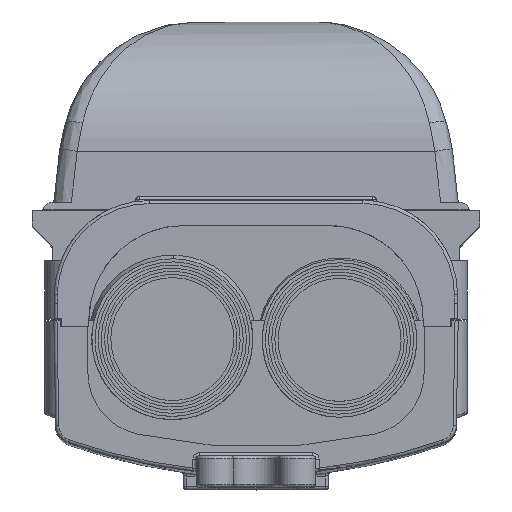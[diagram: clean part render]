
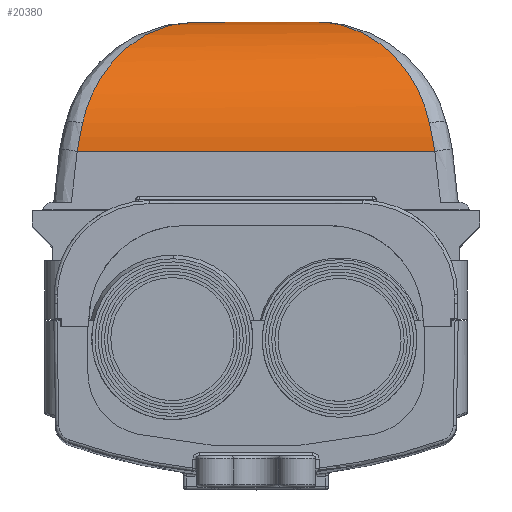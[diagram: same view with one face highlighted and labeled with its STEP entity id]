
A CAD part, top view. The second image highlights one B-rep face of the part: STEP entity #20380.
In plain terms, the highlighted cylindrical face has radius 21.3 mm (diameter 42.6 mm), a partial arc.
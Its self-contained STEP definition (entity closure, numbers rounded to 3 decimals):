
#2614=CARTESIAN_POINT('',(-28.342,51.343,151.975));
#2622=DIRECTION('',(1.,0.,0.));
#2623=VECTOR('',#2622,56.684);
#2624=CARTESIAN_POINT('',(-28.342,51.343,151.975));
#2625=LINE('1698',#2624,#2623);
#5586=CARTESIAN_POINT('',(9.56,71.9,130.687));
#5702=CARTESIAN_POINT('',(-27.496,55.819,151.338));
#5703=CARTESIAN_POINT('',(-27.577,55.45,151.431));
#5704=CARTESIAN_POINT('',(-27.734,54.709,151.598));
#5705=CARTESIAN_POINT('',(-27.954,53.591,151.787));
#5706=CARTESIAN_POINT('',(-28.158,52.468,151.915));
#5707=CARTESIAN_POINT('',(-28.282,51.718,151.961));
#5708=CARTESIAN_POINT('',(-28.342,51.343,151.975));
#5710=CARTESIAN_POINT('',(-9.56,71.9,130.687));
#5711=CARTESIAN_POINT('',(-9.967,71.9,131.156));
#5712=CARTESIAN_POINT('',(-10.779,71.869,132.09));
#5713=CARTESIAN_POINT('',(-11.988,71.731,133.483));
#5714=CARTESIAN_POINT('',(-13.182,71.503,134.858));
#5715=CARTESIAN_POINT('',(-14.353,71.188,136.206));
#5716=CARTESIAN_POINT('',(-15.494,70.79,137.52));
#5717=CARTESIAN_POINT('',(-16.598,70.314,138.791));
#5718=CARTESIAN_POINT('',(-17.66,69.765,140.013));
#5719=CARTESIAN_POINT('',(-18.675,69.15,141.183));
#5720=CARTESIAN_POINT('',(-19.641,68.475,142.294));
#5721=CARTESIAN_POINT('',(-20.553,67.747,143.345));
#5722=CARTESIAN_POINT('',(-21.411,66.971,144.332));
#5723=CARTESIAN_POINT('',(-22.213,66.155,145.256));
#5724=CARTESIAN_POINT('',(-22.959,65.303,146.114));
#5725=CARTESIAN_POINT('',(-23.648,64.422,146.908));
#5726=CARTESIAN_POINT('',(-24.282,63.516,147.637));
#5727=CARTESIAN_POINT('',(-24.861,62.591,148.304));
#5728=CARTESIAN_POINT('',(-25.386,61.649,148.909));
#5729=CARTESIAN_POINT('',(-25.86,60.694,149.454));
#5730=CARTESIAN_POINT('',(-26.283,59.73,149.942));
#5731=CARTESIAN_POINT('',(-26.657,58.758,150.373));
#5732=CARTESIAN_POINT('',(-26.985,57.781,150.749));
#5733=CARTESIAN_POINT('',(-27.266,56.801,151.073));
#5734=CARTESIAN_POINT('',(-27.424,56.146,151.256));
#5735=CARTESIAN_POINT('',(-27.496,55.819,151.338));
#5737=DIRECTION('',(1.,0.,0.));
#5738=VECTOR('',#5737,19.12);
#5739=CARTESIAN_POINT('',(-9.56,71.9,130.687));
#5740=LINE('1697',#5739,#5738);
#5741=CARTESIAN_POINT('',(27.496,55.819,151.338));
#5742=CARTESIAN_POINT('',(27.424,56.146,151.256));
#5743=CARTESIAN_POINT('',(27.266,56.801,151.073));
#5744=CARTESIAN_POINT('',(26.985,57.781,150.749));
#5745=CARTESIAN_POINT('',(26.657,58.758,150.373));
#5746=CARTESIAN_POINT('',(26.283,59.73,149.942));
#5747=CARTESIAN_POINT('',(25.86,60.694,149.454));
#5748=CARTESIAN_POINT('',(25.386,61.649,148.909));
#5749=CARTESIAN_POINT('',(24.86,62.591,148.304));
#5750=CARTESIAN_POINT('',(24.281,63.517,147.637));
#5751=CARTESIAN_POINT('',(23.648,64.423,146.907));
#5752=CARTESIAN_POINT('',(22.958,65.304,146.114));
#5753=CARTESIAN_POINT('',(22.213,66.155,145.255));
#5754=CARTESIAN_POINT('',(21.411,66.972,144.332));
#5755=CARTESIAN_POINT('',(20.553,67.748,143.344));
#5756=CARTESIAN_POINT('',(19.64,68.476,142.293));
#5757=CARTESIAN_POINT('',(18.675,69.151,141.182));
#5758=CARTESIAN_POINT('',(17.659,69.766,140.013));
#5759=CARTESIAN_POINT('',(16.597,70.314,138.79));
#5760=CARTESIAN_POINT('',(15.494,70.79,137.519));
#5761=CARTESIAN_POINT('',(14.353,71.188,136.206));
#5762=CARTESIAN_POINT('',(13.182,71.503,134.858));
#5763=CARTESIAN_POINT('',(11.988,71.731,133.483));
#5764=CARTESIAN_POINT('',(10.779,71.869,132.091));
#5765=CARTESIAN_POINT('',(9.967,71.9,131.156));
#5766=CARTESIAN_POINT('',(9.56,71.9,130.687));
#5768=CARTESIAN_POINT('',(28.342,51.343,151.975));
#5769=CARTESIAN_POINT('',(28.282,51.718,151.961));
#5770=CARTESIAN_POINT('',(28.158,52.467,151.915));
#5771=CARTESIAN_POINT('',(27.954,53.59,151.787));
#5772=CARTESIAN_POINT('',(27.734,54.709,151.598));
#5773=CARTESIAN_POINT('',(27.577,55.45,151.431));
#5774=CARTESIAN_POINT('',(27.496,55.819,151.338));
#11008=VERTEX_POINT('',#2614);
#11010=VERTEX_POINT('',#5702);
#11012=VERTEX_POINT('',#5710);
#11021=VERTEX_POINT('',#5586);
#11022=VERTEX_POINT('',#5741);
#11023=VERTEX_POINT('',#5768);
#20364=CARTESIAN_POINT('',(-30.8,50.6,130.687));
#20365=DIRECTION('',(1.,0.,0.));
#20366=DIRECTION('',(0.,1.,0.));
#20367=AXIS2_PLACEMENT_3D('',#20364,#20365,#20366);
#20368=CYLINDRICAL_SURFACE('416',#20367,21.3);
#20370=ORIENTED_EDGE('1675',*,*,#20369,.F.);
#20372=ORIENTED_EDGE('1677',*,*,#20371,.F.);
#20373=ORIENTED_EDGE('1697',*,*,#20001,.T.);
#20375=ORIENTED_EDGE('1686',*,*,#20374,.F.);
#20376=ORIENTED_EDGE('1687',*,*,#20343,.F.);
#20377=ORIENTED_EDGE('1698',*,*,#14991,.F.);
#20378=EDGE_LOOP('416',(#20370,#20372,#20373,#20375,#20376,#20377));
#20379=FACE_OUTER_BOUND('416',#20378,.F.);
#5709=B_SPLINE_CURVE_WITH_KNOTS('1675',3,(#5702,#5703,#5704,#5705,#5706,#5707,
#5708),.UNSPECIFIED.,.F.,.F.,(4,1,1,1,4),(0.,0.25,0.5,0.75,1.),
.UNSPECIFIED.);
#5736=B_SPLINE_CURVE_WITH_KNOTS('1677',3,(#5710,#5711,#5712,#5713,#5714,#5715,
#5716,#5717,#5718,#5719,#5720,#5721,#5722,#5723,#5724,#5725,#5726,#5727,#5728,
#5729,#5730,#5731,#5732,#5733,#5734,#5735),.UNSPECIFIED.,.F.,.F.,(4,1,1,1,1,1,1,
1,1,1,1,1,1,1,1,1,1,1,1,1,1,1,1,4),(0.,0.043,0.087,
0.13,0.174,0.217,0.261,
0.304,0.348,0.391,0.435,
0.478,0.522,0.565,0.609,
0.652,0.696,0.739,0.783,
0.826,0.87,0.913,0.957,1.),
.UNSPECIFIED.);
#5767=B_SPLINE_CURVE_WITH_KNOTS('1686',3,(#5741,#5742,#5743,#5744,#5745,#5746,
#5747,#5748,#5749,#5750,#5751,#5752,#5753,#5754,#5755,#5756,#5757,#5758,#5759,
#5760,#5761,#5762,#5763,#5764,#5765,#5766),.UNSPECIFIED.,.F.,.F.,(4,1,1,1,1,1,1,
1,1,1,1,1,1,1,1,1,1,1,1,1,1,1,1,4),(0.,0.043,0.087,
0.13,0.174,0.217,0.261,
0.304,0.348,0.391,0.435,
0.478,0.522,0.565,0.609,
0.652,0.696,0.739,0.783,
0.826,0.87,0.913,0.957,1.),
.UNSPECIFIED.);
#5775=B_SPLINE_CURVE_WITH_KNOTS('1687',3,(#5768,#5769,#5770,#5771,#5772,#5773,
#5774),.UNSPECIFIED.,.F.,.F.,(4,1,1,1,4),(0.,0.25,0.5,0.75,1.),
.UNSPECIFIED.);
#14991=EDGE_CURVE('1698',#11008,#11023,#2625,.T.);
#20001=EDGE_CURVE('1697',#11012,#11021,#5740,.T.);
#20343=EDGE_CURVE('1687',#11023,#11022,#5775,.T.);
#20369=EDGE_CURVE('1675',#11010,#11008,#5709,.T.);
#20371=EDGE_CURVE('1677',#11012,#11010,#5736,.T.);
#20374=EDGE_CURVE('1686',#11022,#11021,#5767,.T.);
#20380=ADVANCED_FACE('416',(#20379),#20368,.T.);
